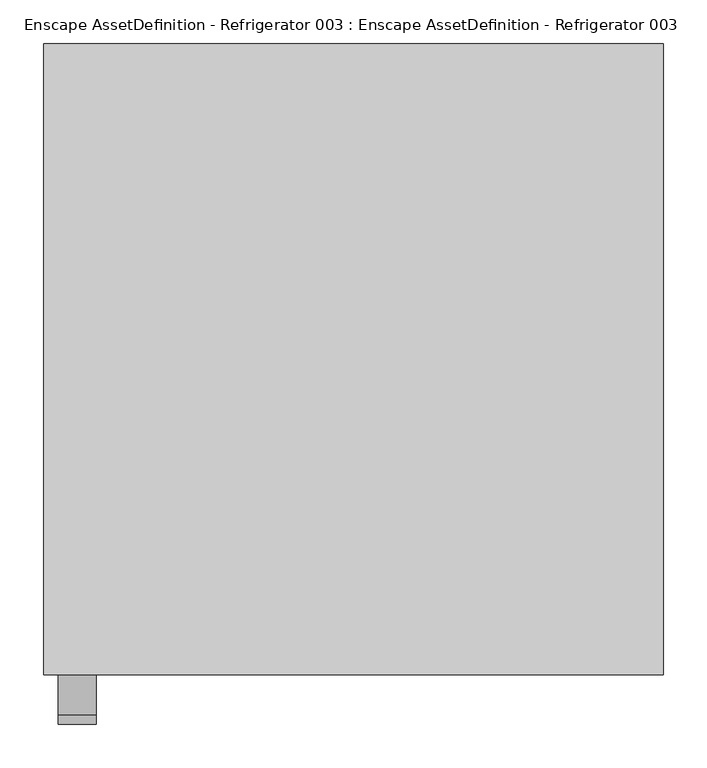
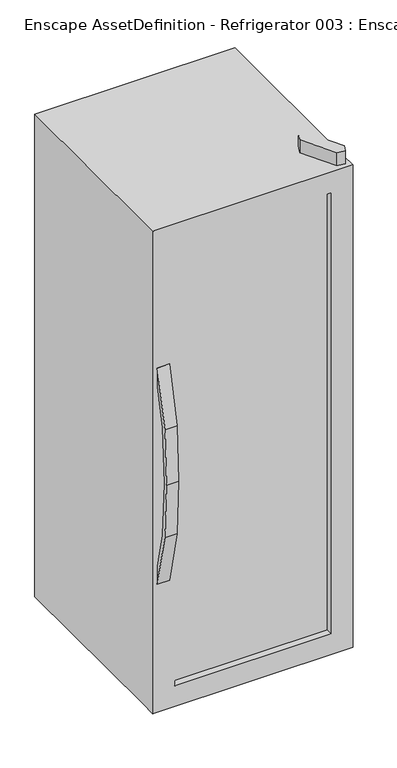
"""IFC4 building model written with IfcOpenShell, lengths in millimetres: geographic element geometry, Enscape AssetDefinition - Refrigerator 003 : Enscape AssetDefinition - Refrigerator 003."""

from ifc_helpers import new_model, si_unit, origin, place, context, project, spatial, triangles, source, transform, mapped, element, save


def enscape_assetdefinition_refrigerator_003_enscape_9b18afd8(model_context):
    return source(origin(), model_context, "Body", "Tessellation", [
        triangles([(-356.2727303, 362.505017, 39.0060448), (-356.2727303, -306.1100218, 39.0060448), (-356.2727303, -306.1100218, 1851.0531475), (-356.2727303, -362.505017, 39.0060448), (356.2727303, -306.1100218, 39.0060448), (356.2727303, 362.505017, 39.0060448), (-356.2727303, 362.505017, 1851.0531475), (356.2727303, -306.1100218, 1851.0531475), (356.2727303, -362.505017, 39.0060448), (356.2727303, -362.505017, 1851.0531475), (356.2727303, 362.505017, 1851.0531475), (-356.2727303, -362.505017, 1851.0531475), (-278.6451466, -362.505017, 116.6321433), (278.6451466, -339.4850195, 1773.4270718), (278.6451466, -362.505017, 116.6321433), (-278.6451466, -362.505017, 1773.4270718), (278.6451466, -362.505017, 1773.4270718), (-278.6451466, -339.4850195, 116.6321433), (-278.6451466, -339.4850195, 1773.4270718), (278.6451466, -339.4850195, 116.6321433), (247.4703053, -224.2231414, 1851.0531475), (258.2320757, -198.2339574, 1899.9998692), (247.4703053, -224.2231414, 1899.9998692), (312.038003, -340.9473212, 1899.9998692), (285.9671379, -202.9282385, 1899.9998692), (350.5332913, -319.6539262, 1899.9998692), (258.2320757, -198.2339574, 1851.0531475), (312.038003, -340.9473212, 1851.0531475), (285.9671379, -202.9282385, 1851.0531475), (350.5332913, -319.6539262, 1851.0531475), (339.7715209, -345.6416204, 1851.0531475), (339.7715209, -345.6416204, 1899.9998692), (266.0009329, -248.6698505, 0.0), (266.0009329, -240.1023139, 48.6321151), (295.0780462, -269.1779556, 48.6321151), (245.4913563, -269.1779556, 0.0), (286.5104914, -269.1779556, 0.0), (236.9252913, -269.1779556, 48.6321151), (266.0009329, -298.2550688, 48.6321151), (266.0009329, -289.687514, 0.0), (-266.0009329, -240.1023139, 48.6321151), (-245.4913563, -269.1779556, 0.0), (-266.0009329, -248.6698505, 0.0), (-236.9252913, -269.1779556, 48.6321151), (-266.0009329, -289.687514, 0.0), (-286.5104914, -269.1779556, 0.0), (-266.0009329, -298.2550688, 48.6321151), (-295.0780462, -269.1779556, 48.6321151), (266.0009329, 240.1023139, 48.6321151), (236.9252913, 269.1779556, 48.6321151), (266.0009329, 289.687514, 0.0), (245.4913563, 269.1779556, 0.0), (286.5104914, 269.1779556, 0.0), (266.0009329, 248.6698505, 0.0), (295.0780462, 269.1779556, 48.6321151), (266.0009329, 298.2550688, 48.6321151), (-245.4913563, 269.1779556, 0.0), (-266.0009329, 240.1023139, 48.6321151), (-236.9252913, 269.1779556, 48.6321151), (-295.0780462, 269.1779556, 48.6321151), (-266.0009329, 248.6698505, 0.0), (-286.5104914, 269.1779556, 0.0), (-266.0009329, 289.687514, 0.0), (-266.0009329, 298.2550688, 48.6321151), (-295.7847254, -409.2710215, 721.9607288), (-339.131698, -409.2710215, 721.9607288), (-295.7847254, -396.2808987, 723.768976), (-295.7847254, -419.5042994, 925.1055965), (-295.7847254, -362.505017, 518.8172419), (-339.131698, -349.773236, 521.7478043), (-295.7847254, -349.773236, 521.7478043), (-339.131698, -396.2808987, 723.768976), (-295.7847254, -406.4221038, 925.1055965), (-339.131698, -362.505017, 518.8172419), (-339.131698, -406.4221038, 925.1055965), (-339.131698, -396.2808987, 1126.4424351), (-295.7847254, -396.2808987, 1126.4424351), (-339.131698, -349.773236, 1328.4636795), (-295.7847254, -349.773236, 1328.4636795), (-339.131698, -419.5042994, 925.1055965), (-295.7847254, -409.2710215, 1128.2506823), (-339.131698, -409.2710215, 1128.2506823), (-339.131698, -362.505017, 1331.3941692), (-295.7847254, -362.505017, 1331.3941692)], [[83, 84, 79], [81, 84, 83], [81, 83, 82], [68, 82, 80], [68, 81, 82], [82, 83, 78], [83, 79, 78], [84, 77, 79], [84, 81, 77], [77, 78, 79], [82, 78, 76], [80, 82, 76], [77, 76, 78], [80, 76, 75], [81, 73, 77], [81, 68, 73], [73, 76, 77], [73, 75, 76], [74, 72, 70], [68, 67, 73], [67, 75, 73], [67, 72, 75], [71, 72, 67], [71, 70, 72], [69, 70, 71], [69, 74, 70], [66, 75, 72], [66, 80, 75], [74, 66, 72], [69, 66, 74], [68, 65, 67], [65, 71, 67], [65, 69, 71], [69, 65, 66], [65, 80, 66], [65, 68, 80], [64, 63, 62], [64, 62, 60], [59, 64, 60], [59, 63, 64], [57, 62, 63], [59, 57, 63], [57, 61, 62], [61, 60, 62], [59, 60, 58], [61, 58, 60], [58, 57, 59], [58, 61, 57], [56, 53, 51], [56, 55, 53], [54, 53, 55], [52, 53, 54], [52, 51, 53], [50, 55, 56], [50, 51, 52], [50, 56, 51], [50, 49, 55], [54, 55, 49], [49, 52, 54], [49, 50, 52], [47, 46, 45], [47, 48, 46], [43, 46, 48], [42, 46, 43], [42, 45, 46], [44, 48, 47], [44, 45, 42], [44, 47, 45], [44, 41, 48], [43, 48, 41], [41, 42, 43], [41, 44, 42], [39, 40, 37], [39, 37, 35], [38, 39, 35], [38, 40, 39], [36, 37, 40], [38, 36, 40], [36, 33, 37], [33, 35, 37], [38, 35, 34], [33, 34, 35], [34, 36, 38], [34, 33, 36], [31, 26, 32], [31, 30, 26], [30, 31, 28], [28, 29, 30], [28, 27, 29], [28, 21, 27], [29, 26, 30], [29, 25, 26], [24, 31, 32], [24, 28, 31], [28, 23, 21], [28, 24, 23], [24, 32, 26], [26, 23, 24], [26, 22, 23], [26, 25, 22], [27, 23, 22], [27, 21, 23], [29, 22, 25], [29, 27, 22], [20, 14, 19], [20, 19, 18], [16, 18, 19], [17, 19, 14], [17, 16, 19], [16, 17, 10], [15, 14, 20], [15, 17, 14], [13, 20, 18], [13, 15, 20], [16, 13, 18], [13, 16, 12], [16, 10, 12], [3, 11, 7], [12, 8, 3], [12, 10, 8], [3, 8, 11], [17, 9, 10], [17, 15, 9], [9, 8, 10], [13, 12, 4], [15, 4, 9], [15, 13, 4], [4, 5, 9], [9, 5, 8], [5, 11, 8], [6, 7, 11], [5, 6, 11], [1, 3, 7], [6, 1, 7], [4, 2, 5], [2, 12, 3], [2, 4, 12], [1, 2, 3], [2, 6, 5], [2, 1, 6]]),
    ])


if __name__ == "__main__":
    model = new_model("IFC4")
    model_context = context("Model", 3, world=origin())
    ifc_project = project(units=[si_unit("LENGTHUNIT", "METRE", prefix="MILLI")], contexts=[model_context])
    site = spatial("IfcSite", under=ifc_project)
    building = spatial("IfcBuilding", under=site)
    placement = place(None, origin())
    enscape_assetdefinition_refrigerator_003_enscape_shape = enscape_assetdefinition_refrigerator_003_enscape_9b18afd8(model_context)
    element("IfcGeographicElement", 1, ObjectType="Enscape AssetDefinition - Refrigerator 003 : Enscape AssetDefinition - Refrigerator 003", at=placement, inside=building, context=model_context, shape_type="MappedRepresentation", body=[
        mapped(enscape_assetdefinition_refrigerator_003_enscape_shape, transform((0.0, 0.0, 0.0), x_axis=(1.0, 0.0, 0.0), y_axis=(0.0, 1.0, 0.0), z_axis=(0.0, 0.0, 1.0))),
    ])
    save(model, "model.ifc")
